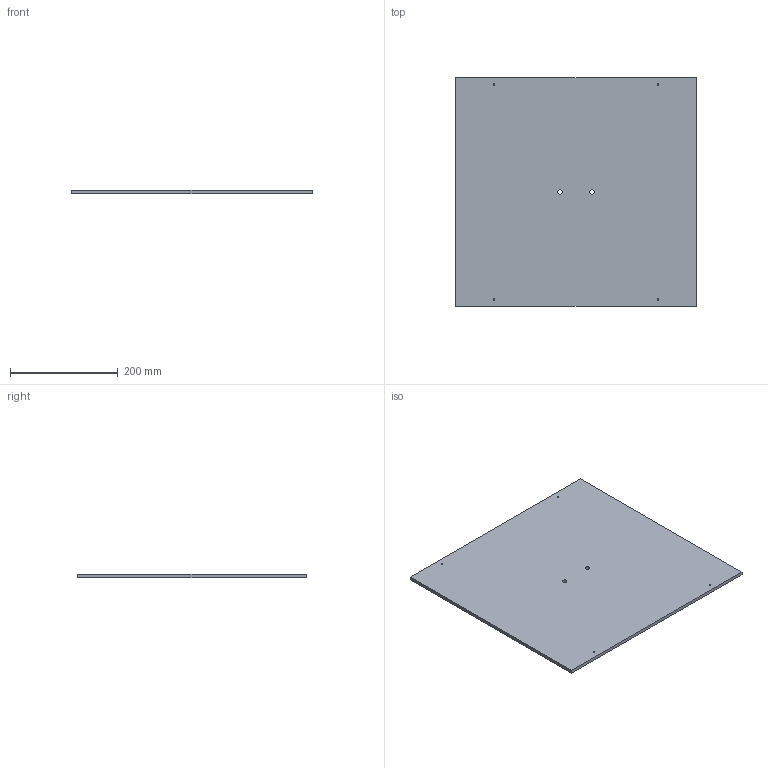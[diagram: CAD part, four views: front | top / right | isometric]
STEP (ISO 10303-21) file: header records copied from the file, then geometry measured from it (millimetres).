
FILE_DESCRIPTION(/* description */ ('STEP AP242','CAx-IF Rec.Pracs.---Representation and Presentation of Product Manufacturing Information (PMI)---4.0---2014-10-13','CAx-IF Rec.Pracs.---3D Tessellated Geometry---0.4---2014-09-14','2;1'),/* implementation_level */ '2;1');
FILE_NAME(/* name */ '67648097ac6069322baa5203',/* time_stamp */ '2024-12-19T20:22:47Z',/* author */ (''),/* organization */ (''),/* preprocessor_version */ 'ST-DEVELOPER v20',/* originating_system */ 'ONSHAPE BY PTC INC, 1.191',/* authorisation */ ' ');
FILE_SCHEMA (('AP242_MANAGED_MODEL_BASED_3D_ENGINEERING_MIM_LF { 1 0 10303 442 1 1 4 }'));
Length unit declared in the file: metre
Products named in the file (1): Part 1
Bounding box: 447.42 x 424.94 x 6.35 mm (x, y, z)
Volume: 1206460.8 mm3; surface area: 391644.7 mm2
Topology: 1 solids, 1 shells, 12 faces, 30 edges, 20 vertices
Faces by surface type: plane 6, cylinder 6
Full cylindrical faces by diameter (mm): 3.226 x4, 8.037 x2
Entity records: 382 total; most frequent: DIRECTION 62, CARTESIAN_POINT 57, ORIENTED_EDGE 48, EDGE_LOOP 30, FACE_BOUND 30, AXIS2_PLACEMENT_3D 25, EDGE_CURVE 24, VERTEX_POINT 20
